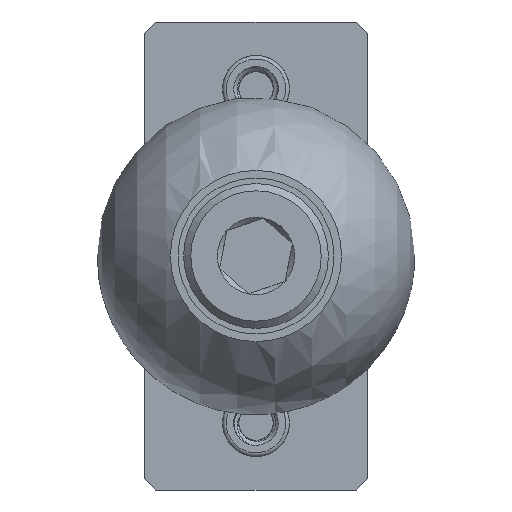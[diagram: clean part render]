
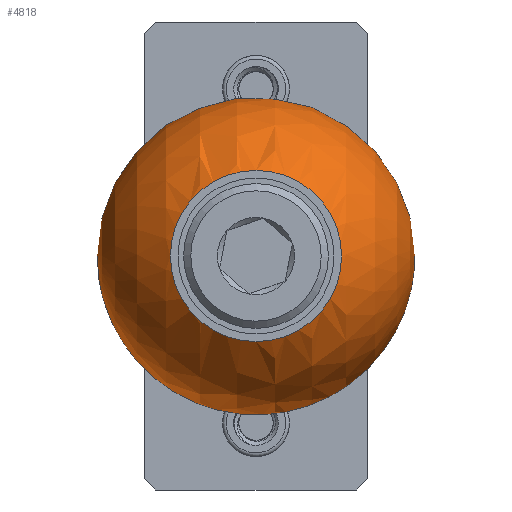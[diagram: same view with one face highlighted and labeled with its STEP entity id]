
A CAD part, left-side view. The second image highlights one B-rep face of the part: STEP entity #4818.
In plain terms, the highlighted spherical face has radius 14.25 mm.
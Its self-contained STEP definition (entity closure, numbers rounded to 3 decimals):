
#488 = CARTESIAN_POINT ( 'NONE',  ( 7.48, 60.814, 86.933 ) ) ;
#1718 = AXIS2_PLACEMENT_3D ( 'NONE', #10466, #17909, #3343 ) ;
#2501 = EDGE_CURVE ( 'NONE', #17407, #17407, #5348, .T. ) ;
#3343 = DIRECTION ( 'NONE',  ( 0., 0., 1. ) ) ;
#3480 = DIRECTION ( 'NONE',  ( 1., 0., 0. ) ) ;
#3571 = AXIS2_PLACEMENT_3D ( 'NONE', #7574, #13473, #6253 ) ;
#4818 = ADVANCED_FACE ( 'NONE', ( #4994, #6884 ), #5677, .T. ) ;
#4994 = FACE_OUTER_BOUND ( 'NONE', #8942, .T. ) ;
#5348 = CIRCLE ( 'NONE', #3571, 7.685 ) ;
#5677 = SPHERICAL_SURFACE ( 'NONE', #1718, 14.25 ) ;
#6253 = DIRECTION ( 'NONE',  ( 0., 0., -1. ) ) ;
#6884 = FACE_OUTER_BOUND ( 'NONE', #16060, .T. ) ;
#7574 = CARTESIAN_POINT ( 'NONE',  ( -16.312, 60.814, 86.933 ) ) ;
#7748 = ORIENTED_EDGE ( 'NONE', *, *, #2501, .T. ) ;
#8527 = ORIENTED_EDGE ( 'NONE', *, *, #10352, .F. ) ;
#8942 = EDGE_LOOP ( 'NONE', ( #8527 ) ) ;
#10352 = EDGE_CURVE ( 'NONE', #12132, #12132, #13662, .T. ) ;
#10466 = CARTESIAN_POINT ( 'NONE',  ( -4.312, 60.814, 86.933 ) ) ;
#12020 = CARTESIAN_POINT ( 'NONE',  ( -16.312, 60.814, 79.248 ) ) ;
#12132 = VERTEX_POINT ( 'NONE', #13604 ) ;
#12135 = DIRECTION ( 'NONE',  ( 0., 0., -1. ) ) ;
#13473 = DIRECTION ( 'NONE',  ( 1., 0., 0. ) ) ;
#13604 = CARTESIAN_POINT ( 'NONE',  ( 7.48, 60.814, 78.933 ) ) ;
#13662 = CIRCLE ( 'NONE', #18828, 8. ) ;
#16060 = EDGE_LOOP ( 'NONE', ( #7748 ) ) ;
#17407 = VERTEX_POINT ( 'NONE', #12020 ) ;
#17909 = DIRECTION ( 'NONE',  ( 0., -1., 0. ) ) ;
#18828 = AXIS2_PLACEMENT_3D ( 'NONE', #488, #3480, #12135 ) ;
